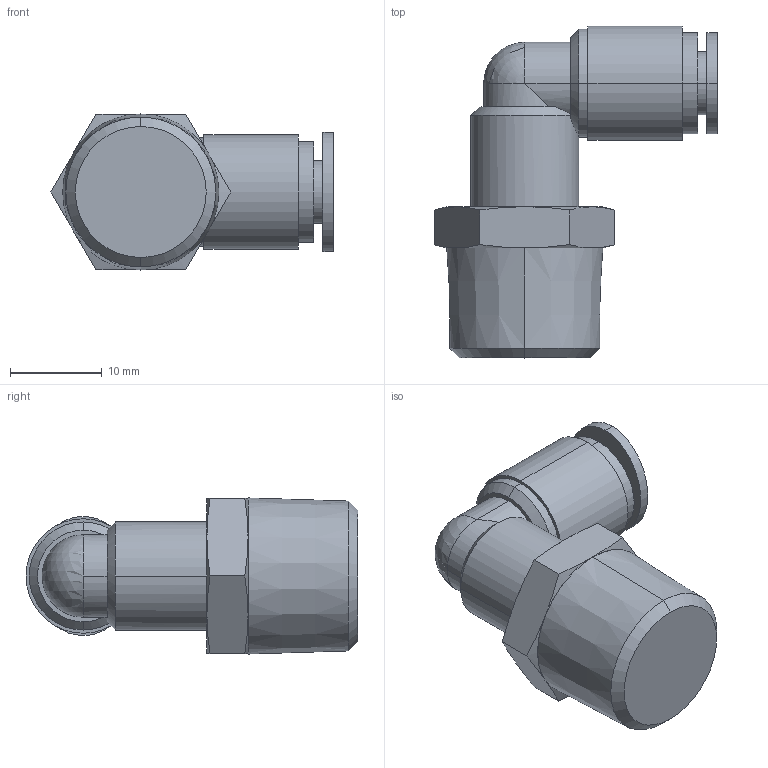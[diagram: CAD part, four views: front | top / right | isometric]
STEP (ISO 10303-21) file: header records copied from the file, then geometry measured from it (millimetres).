
FILE_DESCRIPTION (( 'STEP AP214' ), '1' );
FILE_NAME ('APL6-03.STEP', '2019-11-22T02:28:41', ( '微软用户' ), ( '微软中国' ), 'SwSTEP 2.0', 'SolidWorks 2016', '' );
FILE_SCHEMA (( 'AUTOMOTIVE_DESIGN' ));
Length unit declared in the file: millimetre
Products named in the file (1): APL6-03
Bounding box: 30.82 x 36.25 x 17.05 mm (x, y, z)
Volume: 6636.3 mm3; surface area: 3048.5 mm2
Topology: 1 solids, 1 shells, 57 faces, 126 edges, 76 vertices
Faces by surface type: cone 20, cylinder 17, plane 17, bspline 2, sphere 1
Entity records: 1647 total; most frequent: CARTESIAN_POINT 404, DIRECTION 255, ORIENTED_EDGE 248, EDGE_CURVE 124, AXIS2_PLACEMENT_3D 111, VERTEX_POINT 76, EDGE_LOOP 64, FACE_OUTER_BOUND 57
